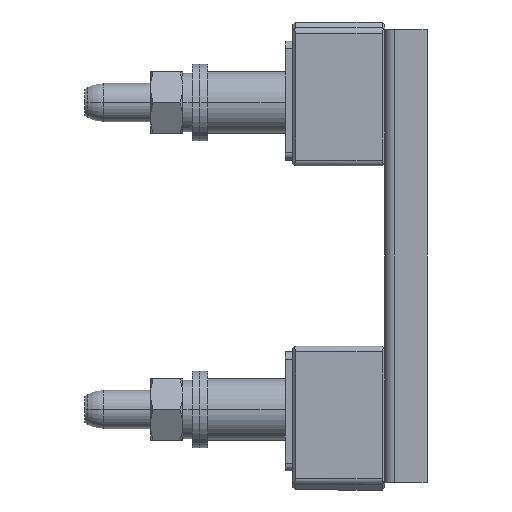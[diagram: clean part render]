
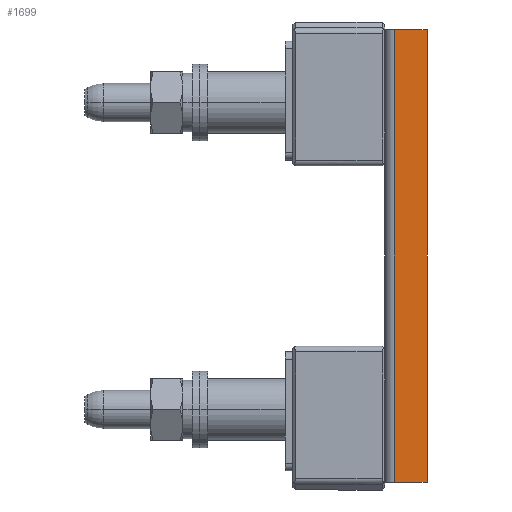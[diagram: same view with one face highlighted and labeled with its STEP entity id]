
A CAD part, left-side view. The second image highlights one B-rep face of the part: STEP entity #1699.
In plain terms, the highlighted planar face has unit normal (-1, 0, 0).
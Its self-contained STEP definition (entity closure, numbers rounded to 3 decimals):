
#1641 = EDGE_CURVE ( 'NONE', #1827, #1829, #6828, .T. ) ;
#1649 = EDGE_CURVE ( 'NONE', #1650, #1827, #6858, .T. ) ;
#1650 = VERTEX_POINT ( 'NONE', #6854 ) ;
#1699 = ADVANCED_FACE ( 'NONE', ( #7008 ), #7044, .F. ) ;
#1703 = EDGE_CURVE ( 'NONE', #1650, #1841, #7076, .T. ) ;
#1704 = ORIENTED_EDGE ( 'NONE', *, *, #1649, .T. ) ;
#1737 = ORIENTED_EDGE ( 'NONE', *, *, #1641, .T. ) ;
#1738 = ORIENTED_EDGE ( 'NONE', *, *, #1739, .F. ) ;
#1739 = EDGE_CURVE ( 'NONE', #1841, #1829, #7140, .T. ) ;
#1749 = EDGE_LOOP ( 'NONE', ( #1737, #1738, #1842, #1704 ) ) ;
#1827 = VERTEX_POINT ( 'NONE', #7469 ) ;
#1829 = VERTEX_POINT ( 'NONE', #7468 ) ;
#1841 = VERTEX_POINT ( 'NONE', #7511 ) ;
#1842 = ORIENTED_EDGE ( 'NONE', *, *, #1703, .F. ) ;
#6825 = DIRECTION ( 'NONE',  ( 0., 1., 0. ) ) ;
#6826 = VECTOR ( 'NONE', #6825, 1000. ) ;
#6827 = CARTESIAN_POINT ( 'NONE',  ( -27.5, -2.5, 59. ) ) ;
#6828 = LINE ( 'NONE', #6827, #6826 ) ;
#6854 = CARTESIAN_POINT ( 'NONE',  ( -27.5, -11., -59. ) ) ;
#6855 = DIRECTION ( 'NONE',  ( 0., 0., 1. ) ) ;
#6856 = VECTOR ( 'NONE', #6855, 1000. ) ;
#6857 = CARTESIAN_POINT ( 'NONE',  ( -27.5, -11., -59. ) ) ;
#6858 = LINE ( 'NONE', #6857, #6856 ) ;
#7008 = FACE_OUTER_BOUND ( 'NONE', #1749, .T. ) ;
#7039 = DIRECTION ( 'NONE',  ( 0., 0., -1. ) ) ;
#7040 = DIRECTION ( 'NONE',  ( 1., 0., 0. ) ) ;
#7041 = CARTESIAN_POINT ( 'NONE',  ( -27.5, -2.5, -59. ) ) ;
#7042 = AXIS2_PLACEMENT_3D ( 'NONE', #7041, #7040, #7039 ) ;
#7044 = PLANE ( 'NONE',  #7042 ) ;
#7073 = DIRECTION ( 'NONE',  ( 0., 1., 0. ) ) ;
#7074 = VECTOR ( 'NONE', #7073, 1000. ) ;
#7075 = CARTESIAN_POINT ( 'NONE',  ( -27.5, -2.5, -59. ) ) ;
#7076 = LINE ( 'NONE', #7075, #7074 ) ;
#7137 = DIRECTION ( 'NONE',  ( 0., 0., 1. ) ) ;
#7138 = VECTOR ( 'NONE', #7137, 1000. ) ;
#7139 = CARTESIAN_POINT ( 'NONE',  ( -27.5, -2.5, -59. ) ) ;
#7140 = LINE ( 'NONE', #7139, #7138 ) ;
#7468 = CARTESIAN_POINT ( 'NONE',  ( -27.5, -2.5, 59. ) ) ;
#7469 = CARTESIAN_POINT ( 'NONE',  ( -27.5, -11., 59. ) ) ;
#7511 = CARTESIAN_POINT ( 'NONE',  ( -27.5, -2.5, -59. ) ) ;
